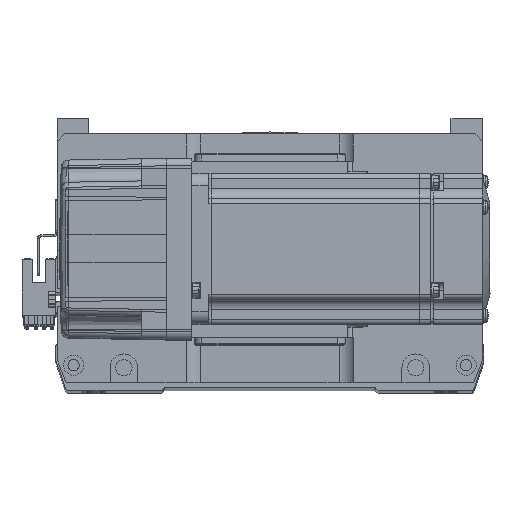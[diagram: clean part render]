
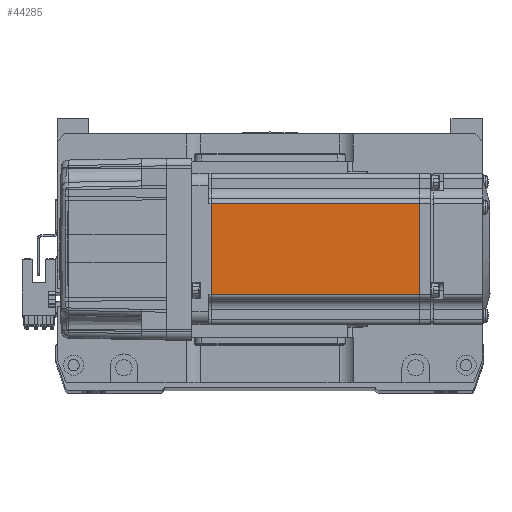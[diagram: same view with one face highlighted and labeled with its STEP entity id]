
A CAD part, top view. The second image highlights one B-rep face of the part: STEP entity #44285.
In plain terms, the highlighted planar face has unit normal (0, 0, 1) as drawn and (0, -1, 0) by its records, which use the part's own axes.
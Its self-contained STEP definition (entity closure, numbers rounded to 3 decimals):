
#814 = VERTEX_POINT ( 'NONE', #33805 ) ;
#1930 = VECTOR ( 'NONE', #60954, 1000. ) ;
#2791 = CARTESIAN_POINT ( 'NONE',  ( -7.75, -30., 18. ) ) ;
#3568 = LINE ( 'NONE', #35425, #53400 ) ;
#4953 = AXIS2_PLACEMENT_3D ( 'NONE', #28307, #47319, #23761 ) ;
#5854 = CARTESIAN_POINT ( 'NONE',  ( -6.5, -30., 18. ) ) ;
#6501 = LINE ( 'NONE', #5854, #42257 ) ;
#6806 = ORIENTED_EDGE ( 'NONE', *, *, #13224, .T. ) ;
#13224 = EDGE_CURVE ( 'NONE', #28438, #34327, #41340, .T. ) ;
#16431 = ORIENTED_EDGE ( 'NONE', *, *, #42792, .T. ) ;
#23621 = CARTESIAN_POINT ( 'NONE',  ( -7.75, -30., -18. ) ) ;
#23761 = DIRECTION ( 'NONE',  ( 0., 0., -1. ) ) ;
#27478 = PLANE ( 'NONE',  #4953 ) ;
#28307 = CARTESIAN_POINT ( 'NONE',  ( -6.5, -30., -25. ) ) ;
#28438 = VERTEX_POINT ( 'NONE', #23621 ) ;
#28760 = ORIENTED_EDGE ( 'NONE', *, *, #38072, .T. ) ;
#33420 = ORIENTED_EDGE ( 'NONE', *, *, #37800, .T. ) ;
#33805 = CARTESIAN_POINT ( 'NONE',  ( -90.45, -30., 18. ) ) ;
#33911 = VECTOR ( 'NONE', #60504, 1000. ) ;
#34327 = VERTEX_POINT ( 'NONE', #2791 ) ;
#34649 = LINE ( 'NONE', #37312, #33911 ) ;
#35425 = CARTESIAN_POINT ( 'NONE',  ( -90.45, -30., -25. ) ) ;
#36052 = FACE_OUTER_BOUND ( 'NONE', #59102, .T. ) ;
#37312 = CARTESIAN_POINT ( 'NONE',  ( -6.5, -30., -18. ) ) ;
#37800 = EDGE_CURVE ( 'NONE', #814, #59039, #3568, .T. ) ;
#38072 = EDGE_CURVE ( 'NONE', #34327, #814, #6501, .T. ) ;
#40368 = CARTESIAN_POINT ( 'NONE',  ( -90.45, -30., -18. ) ) ;
#41340 = LINE ( 'NONE', #42151, #1930 ) ;
#42151 = CARTESIAN_POINT ( 'NONE',  ( -7.75, -30., -25. ) ) ;
#42257 = VECTOR ( 'NONE', #43508, 1000. ) ;
#42792 = EDGE_CURVE ( 'NONE', #59039, #28438, #34649, .T. ) ;
#43508 = DIRECTION ( 'NONE',  ( -1., 0., 0. ) ) ;
#44285 = ADVANCED_FACE ( 'NONE', ( #36052 ), #27478, .T. ) ;
#47319 = DIRECTION ( 'NONE',  ( 0., -1., 0. ) ) ;
#53400 = VECTOR ( 'NONE', #59257, 1000. ) ;
#59039 = VERTEX_POINT ( 'NONE', #40368 ) ;
#59102 = EDGE_LOOP ( 'NONE', ( #6806, #28760, #33420, #16431 ) ) ;
#59257 = DIRECTION ( 'NONE',  ( 0., 0., -1. ) ) ;
#60504 = DIRECTION ( 'NONE',  ( 1., 0., 0. ) ) ;
#60954 = DIRECTION ( 'NONE',  ( 0., 0., 1. ) ) ;
